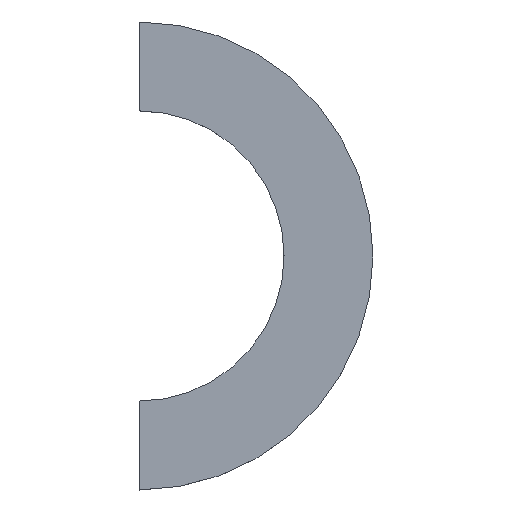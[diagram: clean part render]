
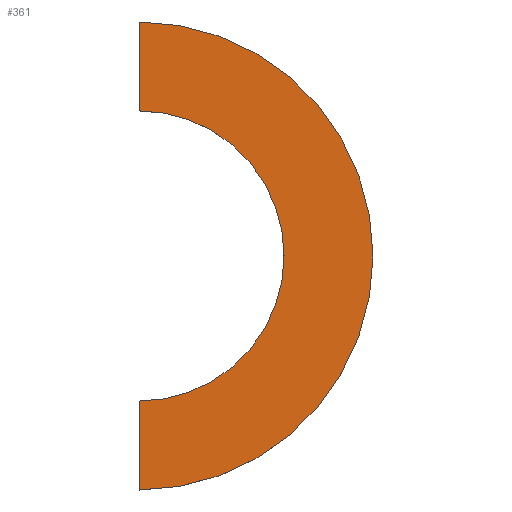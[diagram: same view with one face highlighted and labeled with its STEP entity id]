
A CAD part, top view. The second image highlights one B-rep face of the part: STEP entity #361.
In plain terms, the highlighted planar face has unit normal (0, 0, 1).
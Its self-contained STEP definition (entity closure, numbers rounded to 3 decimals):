
#24 = VERTEX_POINT('',#25);
#25 = CARTESIAN_POINT('',(3.25,0.,6.));
#32 = CYLINDRICAL_SURFACE('',#33,3.25);
#33 = AXIS2_PLACEMENT_3D('',#34,#35,#36);
#34 = CARTESIAN_POINT('',(0.,0.,5.65));
#35 = DIRECTION('',(0.,0.,1.));
#36 = DIRECTION('',(1.,0.,-0.));
#44 = CYLINDRICAL_SURFACE('',#45,3.25);
#45 = AXIS2_PLACEMENT_3D('',#46,#47,#48);
#46 = CARTESIAN_POINT('',(0.,0.,5.65));
#47 = DIRECTION('',(0.,0.,1.));
#48 = DIRECTION('',(1.,0.,-0.));
#56 = EDGE_CURVE('',#57,#24,#59,.T.);
#57 = VERTEX_POINT('',#58);
#58 = CARTESIAN_POINT('',(0.,-3.25,6.));
#59 = SURFACE_CURVE('',#60,(#65,#72),.PCURVE_S1.);
#60 = CIRCLE('',#61,3.25);
#61 = AXIS2_PLACEMENT_3D('',#62,#63,#64);
#62 = CARTESIAN_POINT('',(0.,0.,6.));
#63 = DIRECTION('',(0.,0.,1.));
#64 = DIRECTION('',(1.,0.,-0.));
#65 = PCURVE('',#32,#66);
#66 = DEFINITIONAL_REPRESENTATION('',(#67),#71);
#67 = LINE('',#68,#69);
#68 = CARTESIAN_POINT('',(0.,0.35));
#69 = VECTOR('',#70,1.);
#70 = DIRECTION('',(1.,0.));
#71 = ( GEOMETRIC_REPRESENTATION_CONTEXT(2) 
PARAMETRIC_REPRESENTATION_CONTEXT() REPRESENTATION_CONTEXT('2D SPACE',''
  ) );
#72 = PCURVE('',#73,#78);
#73 = PLANE('',#74);
#74 = AXIS2_PLACEMENT_3D('',#75,#76,#77);
#75 = CARTESIAN_POINT('',(0.,0.,6.));
#76 = DIRECTION('',(0.,0.,1.));
#77 = DIRECTION('',(1.,0.,-0.));
#78 = DEFINITIONAL_REPRESENTATION('',(#79),#83);
#79 = CIRCLE('',#80,3.25);
#80 = AXIS2_PLACEMENT_2D('',#81,#82);
#81 = CARTESIAN_POINT('',(0.,0.));
#82 = DIRECTION('',(1.,0.));
#83 = ( GEOMETRIC_REPRESENTATION_CONTEXT(2) 
PARAMETRIC_REPRESENTATION_CONTEXT() REPRESENTATION_CONTEXT('2D SPACE',''
  ) );
#100 = PLANE('',#101);
#101 = AXIS2_PLACEMENT_3D('',#102,#103,#104);
#102 = CARTESIAN_POINT('',(0.,-50.,-50.));
#103 = DIRECTION('',(1.,0.,0.));
#104 = DIRECTION('',(0.,0.,1.));
#141 = EDGE_CURVE('',#24,#142,#144,.T.);
#142 = VERTEX_POINT('',#143);
#143 = CARTESIAN_POINT('',(0.,3.25,6.));
#144 = SURFACE_CURVE('',#145,(#150,#157),.PCURVE_S1.);
#145 = CIRCLE('',#146,3.25);
#146 = AXIS2_PLACEMENT_3D('',#147,#148,#149);
#147 = CARTESIAN_POINT('',(0.,0.,6.));
#148 = DIRECTION('',(0.,0.,1.));
#149 = DIRECTION('',(1.,0.,-0.));
#150 = PCURVE('',#44,#151);
#151 = DEFINITIONAL_REPRESENTATION('',(#152),#156);
#152 = LINE('',#153,#154);
#153 = CARTESIAN_POINT('',(0.,0.35));
#154 = VECTOR('',#155,1.);
#155 = DIRECTION('',(1.,0.));
#156 = ( GEOMETRIC_REPRESENTATION_CONTEXT(2) 
PARAMETRIC_REPRESENTATION_CONTEXT() REPRESENTATION_CONTEXT('2D SPACE',''
  ) );
#157 = PCURVE('',#73,#158);
#158 = DEFINITIONAL_REPRESENTATION('',(#159),#163);
#159 = CIRCLE('',#160,3.25);
#160 = AXIS2_PLACEMENT_2D('',#161,#162);
#161 = CARTESIAN_POINT('',(0.,0.));
#162 = DIRECTION('',(1.,0.));
#163 = ( GEOMETRIC_REPRESENTATION_CONTEXT(2) 
PARAMETRIC_REPRESENTATION_CONTEXT() REPRESENTATION_CONTEXT('2D SPACE',''
  ) );
#203 = PLANE('',#204);
#204 = AXIS2_PLACEMENT_3D('',#205,#206,#207);
#205 = CARTESIAN_POINT('',(0.,-50.,-50.));
#206 = DIRECTION('',(1.,0.,0.));
#207 = DIRECTION('',(0.,0.,1.));
#257 = CYLINDRICAL_SURFACE('',#258,2.015);
#258 = AXIS2_PLACEMENT_3D('',#259,#260,#261);
#259 = CARTESIAN_POINT('',(0.,0.,5.64));
#260 = DIRECTION('',(0.,0.,1.));
#261 = DIRECTION('',(1.,0.,-0.));
#286 = CYLINDRICAL_SURFACE('',#287,2.015);
#287 = AXIS2_PLACEMENT_3D('',#288,#289,#290);
#288 = CARTESIAN_POINT('',(0.,0.,5.64));
#289 = DIRECTION('',(0.,0.,1.));
#290 = DIRECTION('',(1.,0.,-0.));
#323 = VERTEX_POINT('',#324);
#324 = CARTESIAN_POINT('',(0.,-2.015,6.));
#343 = EDGE_CURVE('',#57,#323,#344,.T.);
#344 = SURFACE_CURVE('',#345,(#349,#355),.PCURVE_S1.);
#345 = LINE('',#346,#347);
#346 = CARTESIAN_POINT('',(0.,-25.,6.));
#347 = VECTOR('',#348,1.);
#348 = DIRECTION('',(0.,1.,0.));
#349 = PCURVE('',#100,#350);
#350 = DEFINITIONAL_REPRESENTATION('',(#351),#354);
#351 = B_SPLINE_CURVE_WITH_KNOTS('',1,(#352,#353),.UNSPECIFIED.,.F.,.F.,
  (2,2),(21.75,28.25),.PIECEWISE_BEZIER_KNOTS.);
#352 = CARTESIAN_POINT('',(56.,-46.75));
#353 = CARTESIAN_POINT('',(56.,-53.25));
#354 = ( GEOMETRIC_REPRESENTATION_CONTEXT(2) 
PARAMETRIC_REPRESENTATION_CONTEXT() REPRESENTATION_CONTEXT('2D SPACE',''
  ) );
#355 = PCURVE('',#73,#356);
#356 = DEFINITIONAL_REPRESENTATION('',(#357),#360);
#357 = B_SPLINE_CURVE_WITH_KNOTS('',1,(#358,#359),.UNSPECIFIED.,.F.,.F.,
  (2,2),(21.75,28.25),.PIECEWISE_BEZIER_KNOTS.);
#358 = CARTESIAN_POINT('',(0.,-3.25));
#359 = CARTESIAN_POINT('',(0.,3.25));
#360 = ( GEOMETRIC_REPRESENTATION_CONTEXT(2) 
PARAMETRIC_REPRESENTATION_CONTEXT() REPRESENTATION_CONTEXT('2D SPACE',''
  ) );
#361 = ADVANCED_FACE('',(#362),#73,.T.);
#362 = FACE_BOUND('',#363,.T.);
#363 = EDGE_LOOP('',(#364,#365,#366,#387,#411,#433));
#364 = ORIENTED_EDGE('',*,*,#56,.T.);
#365 = ORIENTED_EDGE('',*,*,#141,.T.);
#366 = ORIENTED_EDGE('',*,*,#367,.F.);
#367 = EDGE_CURVE('',#368,#142,#370,.T.);
#368 = VERTEX_POINT('',#369);
#369 = CARTESIAN_POINT('',(0.,2.015,6.));
#370 = SURFACE_CURVE('',#371,(#375,#381),.PCURVE_S1.);
#371 = LINE('',#372,#373);
#372 = CARTESIAN_POINT('',(0.,-25.,6.));
#373 = VECTOR('',#374,1.);
#374 = DIRECTION('',(0.,1.,0.));
#375 = PCURVE('',#73,#376);
#376 = DEFINITIONAL_REPRESENTATION('',(#377),#380);
#377 = B_SPLINE_CURVE_WITH_KNOTS('',1,(#378,#379),.UNSPECIFIED.,.F.,.F.,
  (2,2),(21.75,28.25),.PIECEWISE_BEZIER_KNOTS.);
#378 = CARTESIAN_POINT('',(0.,-3.25));
#379 = CARTESIAN_POINT('',(0.,3.25));
#380 = ( GEOMETRIC_REPRESENTATION_CONTEXT(2) 
PARAMETRIC_REPRESENTATION_CONTEXT() REPRESENTATION_CONTEXT('2D SPACE',''
  ) );
#381 = PCURVE('',#203,#382);
#382 = DEFINITIONAL_REPRESENTATION('',(#383),#386);
#383 = B_SPLINE_CURVE_WITH_KNOTS('',1,(#384,#385),.UNSPECIFIED.,.F.,.F.,
  (2,2),(21.75,28.25),.PIECEWISE_BEZIER_KNOTS.);
#384 = CARTESIAN_POINT('',(56.,-46.75));
#385 = CARTESIAN_POINT('',(56.,-53.25));
#386 = ( GEOMETRIC_REPRESENTATION_CONTEXT(2) 
PARAMETRIC_REPRESENTATION_CONTEXT() REPRESENTATION_CONTEXT('2D SPACE',''
  ) );
#387 = ORIENTED_EDGE('',*,*,#388,.F.);
#388 = EDGE_CURVE('',#389,#368,#391,.T.);
#389 = VERTEX_POINT('',#390);
#390 = CARTESIAN_POINT('',(2.015,0.,6.));
#391 = SURFACE_CURVE('',#392,(#397,#404),.PCURVE_S1.);
#392 = CIRCLE('',#393,2.015);
#393 = AXIS2_PLACEMENT_3D('',#394,#395,#396);
#394 = CARTESIAN_POINT('',(0.,0.,6.));
#395 = DIRECTION('',(0.,0.,1.));
#396 = DIRECTION('',(1.,0.,-0.));
#397 = PCURVE('',#73,#398);
#398 = DEFINITIONAL_REPRESENTATION('',(#399),#403);
#399 = CIRCLE('',#400,2.015);
#400 = AXIS2_PLACEMENT_2D('',#401,#402);
#401 = CARTESIAN_POINT('',(0.,0.));
#402 = DIRECTION('',(1.,0.));
#403 = ( GEOMETRIC_REPRESENTATION_CONTEXT(2) 
PARAMETRIC_REPRESENTATION_CONTEXT() REPRESENTATION_CONTEXT('2D SPACE',''
  ) );
#404 = PCURVE('',#257,#405);
#405 = DEFINITIONAL_REPRESENTATION('',(#406),#410);
#406 = LINE('',#407,#408);
#407 = CARTESIAN_POINT('',(0.,0.36));
#408 = VECTOR('',#409,1.);
#409 = DIRECTION('',(1.,0.));
#410 = ( GEOMETRIC_REPRESENTATION_CONTEXT(2) 
PARAMETRIC_REPRESENTATION_CONTEXT() REPRESENTATION_CONTEXT('2D SPACE',''
  ) );
#411 = ORIENTED_EDGE('',*,*,#412,.F.);
#412 = EDGE_CURVE('',#323,#389,#413,.T.);
#413 = SURFACE_CURVE('',#414,(#419,#426),.PCURVE_S1.);
#414 = CIRCLE('',#415,2.015);
#415 = AXIS2_PLACEMENT_3D('',#416,#417,#418);
#416 = CARTESIAN_POINT('',(0.,0.,6.));
#417 = DIRECTION('',(0.,0.,1.));
#418 = DIRECTION('',(1.,0.,-0.));
#419 = PCURVE('',#73,#420);
#420 = DEFINITIONAL_REPRESENTATION('',(#421),#425);
#421 = CIRCLE('',#422,2.015);
#422 = AXIS2_PLACEMENT_2D('',#423,#424);
#423 = CARTESIAN_POINT('',(0.,0.));
#424 = DIRECTION('',(1.,0.));
#425 = ( GEOMETRIC_REPRESENTATION_CONTEXT(2) 
PARAMETRIC_REPRESENTATION_CONTEXT() REPRESENTATION_CONTEXT('2D SPACE',''
  ) );
#426 = PCURVE('',#286,#427);
#427 = DEFINITIONAL_REPRESENTATION('',(#428),#432);
#428 = LINE('',#429,#430);
#429 = CARTESIAN_POINT('',(0.,0.36));
#430 = VECTOR('',#431,1.);
#431 = DIRECTION('',(1.,0.));
#432 = ( GEOMETRIC_REPRESENTATION_CONTEXT(2) 
PARAMETRIC_REPRESENTATION_CONTEXT() REPRESENTATION_CONTEXT('2D SPACE',''
  ) );
#433 = ORIENTED_EDGE('',*,*,#343,.F.);
